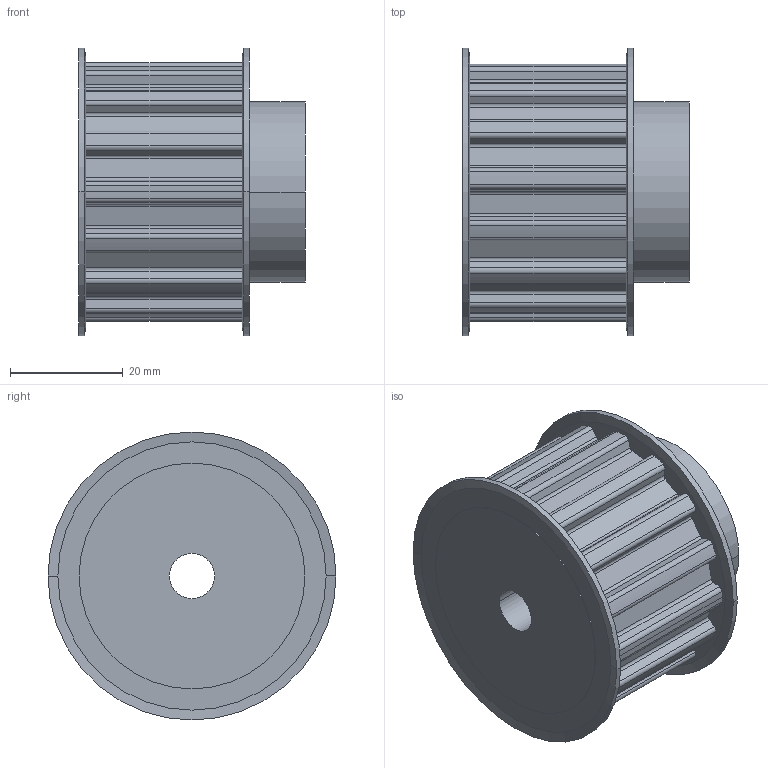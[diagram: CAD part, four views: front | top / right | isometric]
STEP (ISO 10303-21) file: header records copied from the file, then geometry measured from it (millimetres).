
FILE_DESCRIPTION( ( '' ), '1' );
FILE_NAME( 'C:/Users/Stangenbergd/Documents/CAD_Step/1/16431500.stp', '2021-10-19T08:55:02', ( '' ), ( '' ), ' ', ' ', ' ' );
FILE_SCHEMA( ( 'CONFIG_CONTROL_DESIGN' ) );
Length unit declared in the file: millimetre
Products named in the file (1): 1
Bounding box: 40.1 x 51 x 51 mm (x, y, z)
Volume: 50799.4 mm3; surface area: 12660.2 mm2
Topology: 1 solids, 1 shells, 148 faces, 415 edges, 274 vertices
Faces by surface type: cylinder 88, plane 52, cone 8
Entity records: 4887 total; most frequent: DIRECTION 897, CARTESIAN_POINT 838, ORIENTED_EDGE 830, EDGE_CURVE 415, AXIS2_PLACEMENT_3D 333, VERTEX_POINT 274, LINE 231, VECTOR 231
